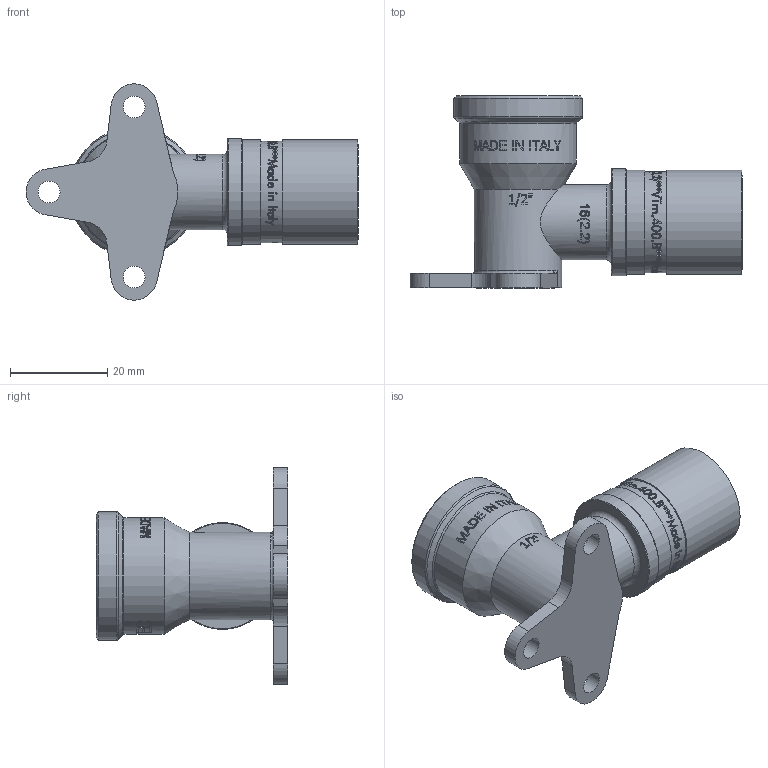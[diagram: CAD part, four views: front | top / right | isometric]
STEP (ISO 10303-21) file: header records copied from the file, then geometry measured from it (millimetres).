
FILE_DESCRIPTION(/* description */ (''),/* implementation_level */ '2;1');
FILE_NAME(/* name */ 'F:\Артём\00000\Работа удаленка\Аксеальные фитинги\VTm.454.BG.001604.stp',/* time_stamp */ '2021-01-27T11:32:37+03:00',/* author */ ('almis'),/* organization */ (''),/* preprocessor_version */ 'ST-DEVELOPER v18',/* originating_system */ 'Autodesk Inventor 2020',/* authorisation */ '');
FILE_SCHEMA (('AUTOMOTIVE_DESIGN { 1 0 10303 214 3 1 1 }'));
Products named in the file (1): VTm.454.BG.001604
Bounding box: 68.31 x 39.5 x 44.48 mm (x, y, z)
Volume: 13378.7 mm3; surface area: 12671.3 mm2
Topology: 1 solids, 1 shells, 1016 faces, 2798 edges, 1879 vertices
Faces by surface type: bspline 481, plane 358, cylinder 137, torus 27, cone 13
Full cylindrical faces by diameter (mm): 4.5 x3, 10 x1, 12.8 x5, 13.4 x4, 14 x1, 15 x1, 15.5 x1, 16.9 x2, 18 x1, 18.6 x5, 20.8 x1, 21.4 x2, 22 x1, 22.2 x6, 24 x1, 26.5 x1
Entity records: 43200 total; most frequent: CARTESIAN_POINT 20026, ORIENTED_EDGE 5596, DIRECTION 3459, EDGE_CURVE 2798, VERTEX_POINT 1879, LINE 1199, VECTOR 1199, AXIS2_PLACEMENT_3D 1130
